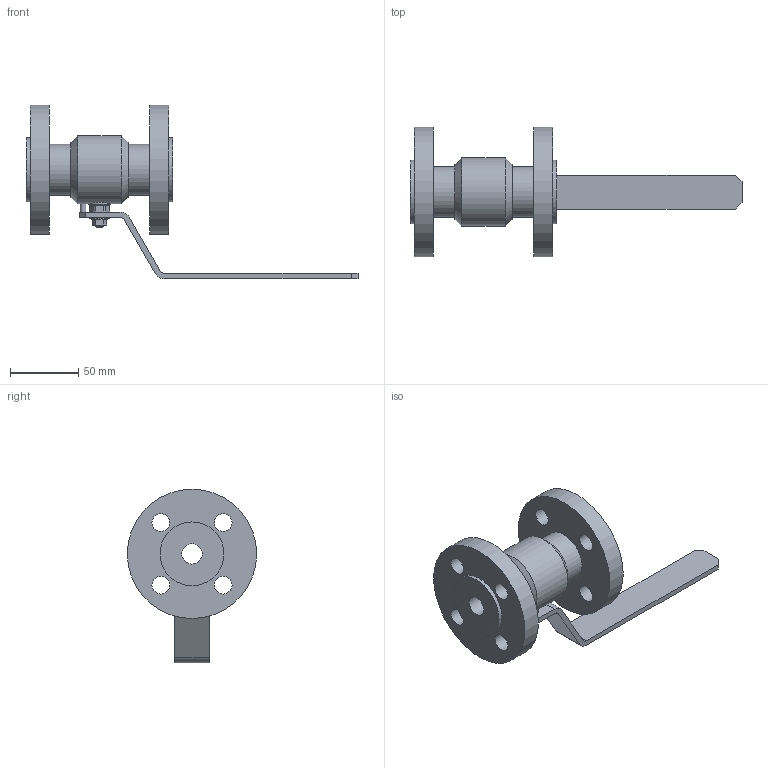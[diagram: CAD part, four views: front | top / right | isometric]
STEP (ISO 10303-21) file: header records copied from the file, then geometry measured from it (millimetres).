
FILE_DESCRIPTION(('STEP AP203'), '1');
FILE_NAME('ZARDP 015.016.21.P.stp', '2013-12-05T09:04:15', ('User'), ('Computer'), 'ASCON STEP Converter 1.3', 'Kompas 3D', '');
FILE_SCHEMA(('CONFIG_CONTROL_DESIGN','SUPPORT_RESOURCE_SCHEMA'));
Length unit declared in the file: millimetre
Products named in the file (1): 67
Bounding box: 244 x 95 x 127.5 mm (x, y, z)
Volume: 302230.5 mm3; surface area: 70621.4 mm2
Topology: 1 solids, 3 shells, 149 faces, 352 edges, 218 vertices
Faces by surface type: plane 84, cylinder 44, cone 20, bspline 1
Full cylindrical faces by diameter (mm): 4 x2, 6 x2, 8.673 x1, 9 x1, 10 x1, 10.1 x1, 13 x8, 14.2 x1, 15 x2, 15.8 x1, 16 x3, 31.4 x1, 37.5 x2, 47 x2, 50 x1, 95 x2
Entity records: 5323 total; most frequent: CARTESIAN_POINT 1695, DIRECTION 765, ORIENTED_EDGE 702, EDGE_CURVE 351, AXIS2_PLACEMENT_3D 290, VERTEX_POINT 218, EDGE_LOOP 189, LINE 185
